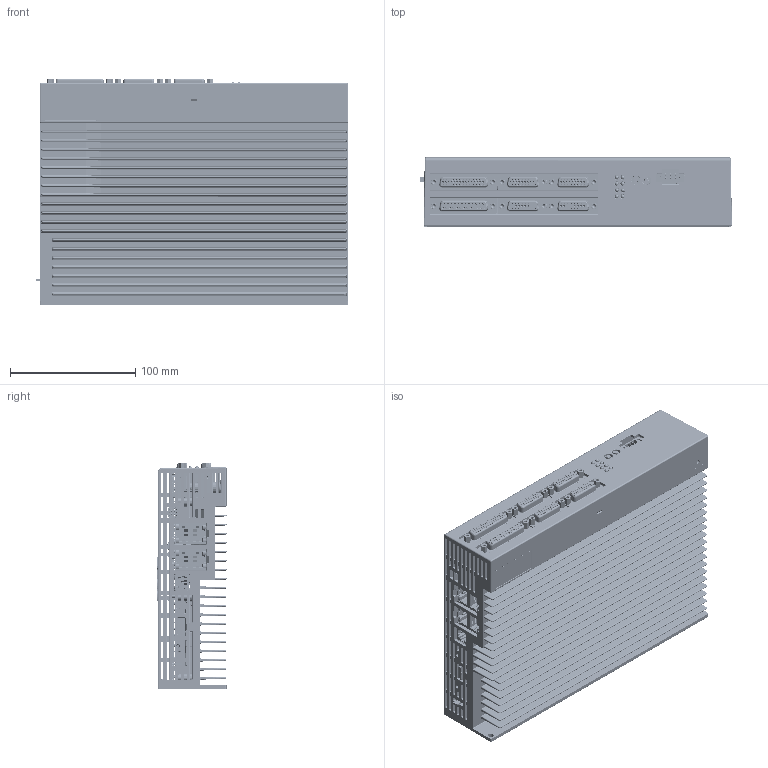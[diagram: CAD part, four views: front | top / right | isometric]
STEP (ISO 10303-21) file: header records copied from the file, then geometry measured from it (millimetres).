
FILE_DESCRIPTION((''),'2;1');
FILE_NAME('D:\PROJECTS\ACS\IDM-ICM\SB-21500-XXX_LF-A1-LIGHT W-O TEXTS.stp','2022-03-05T20:18:54',('YURI'),(''),'Autodesk Inventor 2012','Autodesk Inventor 2012','');
FILE_SCHEMA(('AUTOMOTIVE_DESIGN { 1 0 10303 214 1 1 1 1 }'));
Length unit declared in the file: millimetre
Products named in the file (25): SB-21500-XXX_LF-A1-LIGHT; SB-21510-XXX_LF-A-LIGHT; PC-21521-001_LF-A-LIGHT; Samtec-TSM-103-01-L-SH-A; Amphenol-RJ11-shield-M-RJE05-144-1X10-REVT2; PIN HEADER; Kingbright-L-7104SB-4GD; Amtek-57H1DRXX-EEXXS0BA-XX; C&K-RTE1600V44; Most-Well-R2HB5HD-352-7A3; Amtek-D2033S8SB112DE11N0; Amtek-MRJDS-201-8P8C-XBX-U; Molex-428203228; PHOENIX-pxc_1924101_03_MSTB-2-5-HC-4-GF-5-08_3D; Phoenix-1781816_01_MC-1-5-3-GF-3-81-P14-THR; NEW STO-LIGHT; SM05B-PASS-1-TB; LED-KPG-1005-5M-RY271; SM-PM306-000-LF; SC-10404-040; LA-IDMECM-000_LF; CV-21500-XXX-A-LIGHT; HE-21500-XXX-A1; Jumper-Amtek-MJ2P-F02GB-L; SM-PM308-000_LF
Assembly tree (35 placements, depth 4):
  SB-21500-XXX_LF-A1-LIGHT
    SB-21510-XXX_LF-A-LIGHT
      PC-21521-001_LF-A-LIGHT
        Samtec-TSM-103-01-L-SH-A  x2
        Amphenol-RJ11-shield-M-RJE05-144-1X10-REVT2
        PIN HEADER
        Kingbright-L-7104SB-4GD  x2
        Amtek-57H1DRXX-EEXXS0BA-XX
        C&K-RTE1600V44  x2
        Most-Well-R2HB5HD-352-7A3  x2
        Amtek-D2033S8SB112DE11N0
        Amtek-MRJDS-201-8P8C-XBX-U  x2
        Molex-428203228
        PHOENIX-pxc_1924101_03_MSTB-2-5-HC-4-GF-5-08_3D  x4
        Phoenix-1781816_01_MC-1-5-3-GF-3-81-P14-THR
      NEW STO-LIGHT
        SM05B-PASS-1-TB
        LED-KPG-1005-5M-RY271  x2
      SM-PM306-000-LF
    SC-10404-040  x3
    LA-IDMECM-000_LF
    CV-21500-XXX-A-LIGHT
    HE-21500-XXX-A1
    Jumper-Amtek-MJ2P-F02GB-L
    SM-PM308-000_LF
Bounding box: 248.78 x 55.1 x 180.5 mm (x, y, z)
Volume: 577693.9 mm3; surface area: 575806.9 mm2
Topology: 119 solids, 144 shells, 20661 faces, 55146 edges, 35275 vertices
Faces by surface type: plane 14231, cylinder 4450, bspline 1082, cone 444, torus 274, sphere 180
Full cylindrical faces by diameter (mm): 0.04 x2, 0.2 x8, 0.434 x4, 0.457 x1, 0.6 x4, 0.7 x16, 0.8 x12, 0.889 x2, 0.9 x200, 1 x8, 1.1 x25, 1.2 x3, 1.25 x3, 1.4 x16, 1.575 x4, 1.6 x3, 1.8 x10, 2.26 x4, 2.261 x16, 2.4 x11, 2.459 x9, 2.487 x1, 2.5 x12, 2.8 x18, 2.9 x8, 3 x79, 3.1 x16, 3.242 x1, 3.4 x5, 3.5 x8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
Entity records: 505787 total; most frequent: CARTESIAN_POINT 131105, ORIENTED_EDGE 78304, DIRECTION 74360, EDGE_CURVE 39152, VECTOR 28872, LINE 28872, VERTEX_POINT 25482, AXIS2_PLACEMENT_3D 22744
